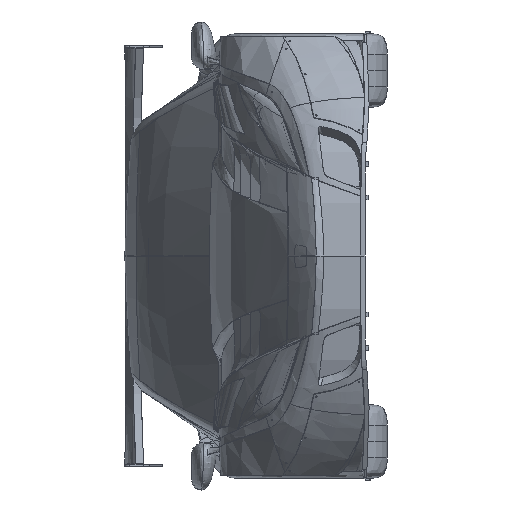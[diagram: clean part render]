
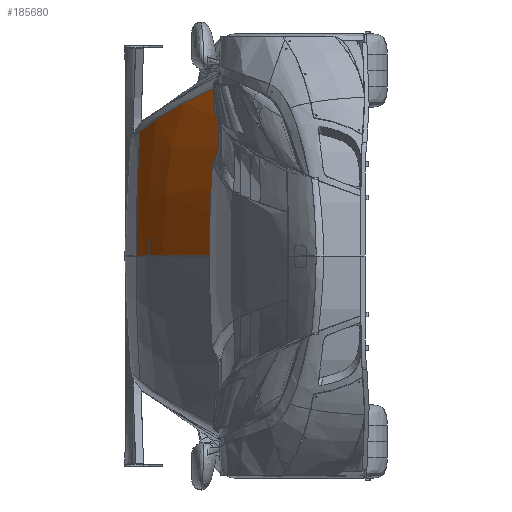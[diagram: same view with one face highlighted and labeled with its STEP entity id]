
A CAD part, left-side view. The second image highlights one B-rep face of the part: STEP entity #185680.
In plain terms, the highlighted free-form (B-spline) face has degree [3, 3] with [4, 11] control points.
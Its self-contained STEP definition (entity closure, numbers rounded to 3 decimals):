
#279 = CARTESIAN_POINT ( 'NONE',  ( 1572.668, 755.682, 445.117 ) ) ;
#3669 = CARTESIAN_POINT ( 'NONE',  ( 2410.09, 1105.557, 558.52 ) ) ;
#5780 = CARTESIAN_POINT ( 'NONE',  ( 2410.09, 1105.557, 558.52 ) ) ;
#5864 = CARTESIAN_POINT ( 'NONE',  ( 1995.513, 992.218, 0. ) ) ;
#6452 = CARTESIAN_POINT ( 'NONE',  ( 2171.988, 1003.228, 634.347 ) ) ;
#9208 = CARTESIAN_POINT ( 'NONE',  ( 1804.102, 767.043, 754.193 ) ) ;
#15417 = CARTESIAN_POINT ( 'NONE',  ( 1572.668, 755.682, 0. ) ) ;
#16113 = CARTESIAN_POINT ( 'NONE',  ( 2321.631, 1116.384, 363.79 ) ) ;
#19512 = CARTESIAN_POINT ( 'NONE',  ( 2367.27, 1091.396, 571.118 ) ) ;
#21724 = CARTESIAN_POINT ( 'NONE',  ( 2191.508, 1083.651, 0. ) ) ;
#22336 = CARTESIAN_POINT ( 'NONE',  ( 1946.319, 868.471, 708.274 ) ) ;
#31262 = CARTESIAN_POINT ( 'NONE',  ( 2304.215, 1123.632, 210.956 ) ) ;
#31911 = CARTESIAN_POINT ( 'NONE',  ( 2277.841, 1099.556, 381.208 ) ) ;
#32652 = VERTEX_POINT ( 'NONE', #184930 ) ;
#35326 = CARTESIAN_POINT ( 'NONE',  ( 2250.751, 1043.043, 608.5 ) ) ;
#37117 = ORIENTED_EDGE ( 'NONE', *, *, #181586, .T. ) ;
#37551 = CARTESIAN_POINT ( 'NONE',  ( 2279.093, 1116.196, 0. ) ) ;
#38159 = CARTESIAN_POINT ( 'NONE',  ( 1804.102, 767.043, 754.193 ) ) ;
#39044 = ORIENTED_EDGE ( 'NONE', *, *, #131743, .T. ) ;
#40933 = CARTESIAN_POINT ( 'NONE',  ( 1572.668, 755.682, 445.117 ) ) ;
#43071 = CARTESIAN_POINT ( 'NONE',  ( 2308.078, 1124.648, 0. ) ) ;
#46105 = VERTEX_POINT ( 'NONE', #126133 ) ;
#46406 = CARTESIAN_POINT ( 'NONE',  ( 2304.215, 1123.632, 0. ) ) ;
#47092 = CARTESIAN_POINT ( 'NONE',  ( 2279.093, 1116.196, 225.745 ) ) ;
#50501 = CARTESIAN_POINT ( 'NONE',  ( 2159.129, 1044.102, 432.163 ) ) ;
#51162 = CARTESIAN_POINT ( 'NONE',  ( 2069.736, 946.073, 667.925 ) ) ;
#52724 = CARTESIAN_POINT ( 'NONE',  ( 1572.668, 755.682, 0. ) ) ;
#53041 = EDGE_CURVE ( 'NONE', #46105, #32652, #90934, .T. ) ;
#53392 = CARTESIAN_POINT ( 'NONE',  ( 2304.215, 1123.632, 0. ) ) ;
#58990 = VERTEX_POINT ( 'NONE', #90402 ) ;
#62229 = CARTESIAN_POINT ( 'NONE',  ( 2279.093, 1116.196, 0. ) ) ;
#62894 = CARTESIAN_POINT ( 'NONE',  ( 2191.508, 1083.651, 267.648 ) ) ;
#66300 = CARTESIAN_POINT ( 'NONE',  ( 1976.223, 936.969, 513.374 ) ) ;
#66961 = CARTESIAN_POINT ( 'NONE',  ( 1851.077, 801.522, 739.084 ) ) ;
#78014 = CARTESIAN_POINT ( 'NONE',  ( 2191.508, 1083.651, 0. ) ) ;
#78282 = CARTESIAN_POINT ( 'NONE',  ( 1658.909, 807.121, 0. ) ) ;
#78678 = CARTESIAN_POINT ( 'NONE',  ( 1995.513, 992.218, 336.663 ) ) ;
#80071 = ORIENTED_EDGE ( 'NONE', *, *, #123367, .T. ) ;
#82106 = CARTESIAN_POINT ( 'NONE',  ( 1757.811, 782.165, 610.6 ) ) ;
#84910 = CARTESIAN_POINT ( 'NONE',  ( 2367.27, 1091.396, 571.118 ) ) ;
#90402 = CARTESIAN_POINT ( 'NONE',  ( 1804.102, 767.043, 754.193 ) ) ;
#90469 = CARTESIAN_POINT ( 'NONE',  ( 2417.372, 1107.727, 556.643 ) ) ;
#90934 = B_SPLINE_CURVE_WITH_KNOTS ( 'NONE', 3,
 ( #43071, #169054, #184913, #90469 ),
 .UNSPECIFIED., .F., .F.,
 ( 4, 4 ),
 ( 0., 1. ),
 .UNSPECIFIED. ) ;
#93834 = CARTESIAN_POINT ( 'NONE',  ( 1995.513, 992.218, 0. ) ) ;
#94510 = CARTESIAN_POINT ( 'NONE',  ( 1658.909, 807.121, 425.398 ) ) ;
#97930 = CARTESIAN_POINT ( 'NONE',  ( 2417.372, 1107.727, 556.643 ) ) ;
#100161 = CARTESIAN_POINT ( 'NONE',  ( 1821.624, 900.615, 0. ) ) ;
#100763 = CARTESIAN_POINT ( 'NONE',  ( 2250.751, 1043.043, 608.5 ) ) ;
#103505 = CARTESIAN_POINT ( 'NONE',  ( 1711.202, 745.812, 631.08 ) ) ;
#108498 = VERTEX_POINT ( 'NONE', #188563 ) ;
#109685 = CARTESIAN_POINT ( 'NONE',  ( 1658.909, 807.121, 0. ) ) ;
#109997 = B_SPLINE_CURVE_WITH_KNOTS ( 'NONE', 3,
 ( #52724, #78282, #100161, #5864, #116007, #21724, #131839, #37551, #147694, #53392, #163583 ),
 .UNSPECIFIED., .F., .F.,
 ( 4, 1, 1, 1, 1, 1, 1, 1, 4 ),
 ( 0., 0.25, 0.5, 0.625, 0.75, 0.875, 0.938, 0.969, 1. ),
 .UNSPECIFIED. ) ;
#110354 = CARTESIAN_POINT ( 'NONE',  ( 2329.086, 1119.006, 361.109 ) ) ;
#113802 = CARTESIAN_POINT ( 'NONE',  ( 2395.676, 1101.058, 562.584 ) ) ;
#116007 = CARTESIAN_POINT ( 'NONE',  ( 2113.875, 1049.26, 0. ) ) ;
#116603 = CARTESIAN_POINT ( 'NONE',  ( 2069.736, 946.073, 667.925 ) ) ;
#123367 = EDGE_CURVE ( 'NONE', #108498, #46105, #109997, .T. ) ;
#125555 = CARTESIAN_POINT ( 'NONE',  ( 2308.078, 1124.648, 208.491 ) ) ;
#126133 = CARTESIAN_POINT ( 'NONE',  ( 2308.078, 1124.648, 0. ) ) ;
#126242 = CARTESIAN_POINT ( 'NONE',  ( 2306.882, 1110.987, 369.462 ) ) ;
#129613 = CARTESIAN_POINT ( 'NONE',  ( 2318.46, 1072.933, 586.48 ) ) ;
#131743 = EDGE_CURVE ( 'NONE', #58990, #108498, #156473, .T. ) ;
#131839 = CARTESIAN_POINT ( 'NONE',  ( 2246.287, 1105.094, 0. ) ) ;
#132137 = ORIENTED_EDGE ( 'NONE', *, *, #53041, .T. ) ;
#132425 = CARTESIAN_POINT ( 'NONE',  ( 1851.077, 801.522, 739.084 ) ) ;
#141422 = CARTESIAN_POINT ( 'NONE',  ( 2296.208, 1121.407, 215.886 ) ) ;
#142096 = CARTESIAN_POINT ( 'NONE',  ( 2228.029, 1078.085, 402.178 ) ) ;
#145502 = CARTESIAN_POINT ( 'NONE',  ( 2171.988, 1003.228, 634.347 ) ) ;
#147608 = CARTESIAN_POINT ( 'NONE',  ( 2417.372, 1107.727, 556.643 ) ) ;
#147694 = CARTESIAN_POINT ( 'NONE',  ( 2296.208, 1121.407, 0. ) ) ;
#147957 = FACE_OUTER_BOUND ( 'NONE', #178753, .T. ) ;
#148632 = B_SPLINE_SURFACE_WITH_KNOTS ( 'NONE', 3, 3, ( 
 ( #155915, #46406, #156591, #62229, #172389, #78014, #188255, #93834, #204092, #109685, #15417 ),
 ( #125555, #31262, #141422, #47092, #157266, #62894, #173088, #78678, #188928, #94510, #279 ),
 ( #110354, #16113, #126242, #31911, #142096, #50501, #160698, #66300, #176490, #82106, #192346 ),
 ( #97930, #3669, #113802, #19512, #129613, #35326, #145502, #51162, #161361, #66961, #177151 ) ),
 .UNSPECIFIED., .F., .F., .F.,
 ( 4, 4 ),
 ( 4, 1, 1, 1, 1, 1, 1, 1, 4 ),
 ( 0., 1. ),
 ( 0., 0.031, 0.062, 0.125, 0.25, 0.375, 0.5, 0.75, 1. ),
 .UNSPECIFIED. ) ;
#150643 = B_SPLINE_CURVE_WITH_KNOTS ( 'NONE', 3,
 ( #147608, #5780, #179334, #84910, #195158, #100763, #6452, #116603, #22336, #132425, #38159 ),
 .UNSPECIFIED., .F., .F.,
 ( 4, 1, 1, 1, 1, 1, 1, 1, 4 ),
 ( 0., 0.031, 0.062, 0.125, 0.25, 0.375, 0.5, 0.75, 1. ),
 .UNSPECIFIED. ) ;
#151062 = CARTESIAN_POINT ( 'NONE',  ( 1572.668, 755.682, 0. ) ) ;
#155915 = CARTESIAN_POINT ( 'NONE',  ( 2308.078, 1124.648, 0. ) ) ;
#156473 = B_SPLINE_CURVE_WITH_KNOTS ( 'NONE', 3,
 ( #9208, #103505, #40933, #151062 ),
 .UNSPECIFIED., .F., .F.,
 ( 4, 4 ),
 ( 0., 1. ),
 .UNSPECIFIED. ) ;
#156591 = CARTESIAN_POINT ( 'NONE',  ( 2296.208, 1121.407, 0. ) ) ;
#157266 = CARTESIAN_POINT ( 'NONE',  ( 2246.287, 1105.094, 242.999 ) ) ;
#160698 = CARTESIAN_POINT ( 'NONE',  ( 2079.304, 999.694, 467.459 ) ) ;
#161361 = CARTESIAN_POINT ( 'NONE',  ( 1946.319, 868.471, 708.274 ) ) ;
#163583 = CARTESIAN_POINT ( 'NONE',  ( 2308.078, 1124.648, 0. ) ) ;
#169054 = CARTESIAN_POINT ( 'NONE',  ( 2308.078, 1124.648, 208.491 ) ) ;
#172389 = CARTESIAN_POINT ( 'NONE',  ( 2246.287, 1105.094, 0. ) ) ;
#173088 = CARTESIAN_POINT ( 'NONE',  ( 2113.875, 1049.26, 297.226 ) ) ;
#176490 = CARTESIAN_POINT ( 'NONE',  ( 1852.625, 853.291, 568.55 ) ) ;
#177151 = CARTESIAN_POINT ( 'NONE',  ( 1804.102, 767.043, 754.193 ) ) ;
#178753 = EDGE_LOOP ( 'NONE', ( #132137, #37117, #39044, #80071 ) ) ;
#179334 = CARTESIAN_POINT ( 'NONE',  ( 2395.676, 1101.058, 562.584 ) ) ;
#181586 = EDGE_CURVE ( 'NONE', #32652, #58990, #150643, .T. ) ;
#184913 = CARTESIAN_POINT ( 'NONE',  ( 2329.086, 1119.006, 361.109 ) ) ;
#184930 = CARTESIAN_POINT ( 'NONE',  ( 2417.372, 1107.727, 556.643 ) ) ;
#185680 = ADVANCED_FACE ( 'NONE', ( #147957 ), #148632, .T. ) ;
#188255 = CARTESIAN_POINT ( 'NONE',  ( 2113.875, 1049.26, 0. ) ) ;
#188563 = CARTESIAN_POINT ( 'NONE',  ( 1572.668, 755.682, 0. ) ) ;
#188928 = CARTESIAN_POINT ( 'NONE',  ( 1821.624, 900.615, 385.96 ) ) ;
#192346 = CARTESIAN_POINT ( 'NONE',  ( 1711.202, 745.812, 631.08 ) ) ;
#195158 = CARTESIAN_POINT ( 'NONE',  ( 2318.46, 1072.933, 586.48 ) ) ;
#204092 = CARTESIAN_POINT ( 'NONE',  ( 1821.624, 900.615, 0. ) ) ;
